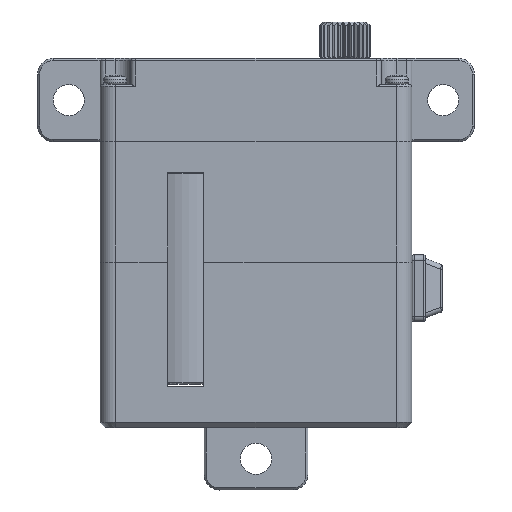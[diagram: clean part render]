
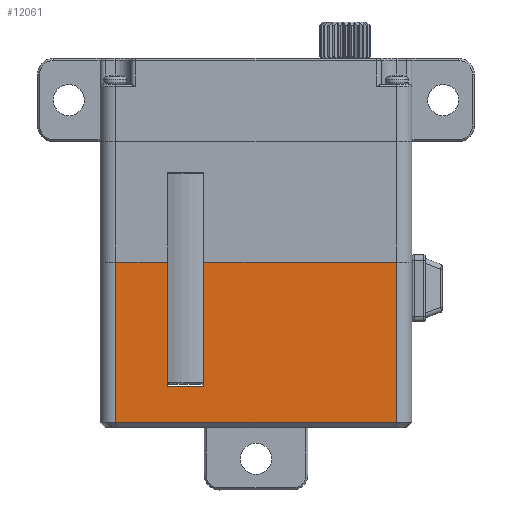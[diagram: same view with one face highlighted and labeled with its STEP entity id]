
A CAD part, top view. The second image highlights one B-rep face of the part: STEP entity #12061.
In plain terms, the highlighted planar face has unit normal (0, 0, 1).
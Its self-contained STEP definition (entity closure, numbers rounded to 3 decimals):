
#470=DIRECTION('',(1.,0.,0.));
#471=VECTOR('',#470,4.99);
#472=CARTESIAN_POINT('',(-13.5,-11.61,5.));
#473=LINE('',#472,#471);
#474=DIRECTION('',(1.,0.,0.));
#475=VECTOR('',#474,3.5);
#476=CARTESIAN_POINT('',(-8.51,-23.6,5.));
#477=LINE('',#476,#475);
#478=DIRECTION('',(1.,0.,0.));
#479=VECTOR('',#478,18.51);
#480=CARTESIAN_POINT('',(-5.01,-11.61,5.));
#481=LINE('',#480,#479);
#482=DIRECTION('',(0.,-1.,0.));
#483=VECTOR('',#482,15.39);
#484=CARTESIAN_POINT('',(13.5,-11.61,5.));
#485=LINE('',#484,#483);
#486=DIRECTION('',(-1.,0.,0.));
#487=VECTOR('',#486,27.);
#488=CARTESIAN_POINT('',(13.5,-27.,5.));
#489=LINE('',#488,#487);
#490=DIRECTION('',(0.,1.,0.));
#491=VECTOR('',#490,15.39);
#492=CARTESIAN_POINT('',(-13.5,-27.,5.));
#493=LINE('',#492,#491);
#5718=DIRECTION('',(0.,1.,0.));
#5719=VECTOR('',#5718,11.99);
#5720=CARTESIAN_POINT('',(-8.51,-23.6,5.));
#5721=LINE('',#5720,#5719);
#6596=DIRECTION('',(0.,-1.,0.));
#6597=VECTOR('',#6596,11.99);
#6598=CARTESIAN_POINT('',(-5.01,-11.61,5.));
#6599=LINE('',#6598,#6597);
#9600=CARTESIAN_POINT('',(-8.51,-23.6,5.));
#9601=CARTESIAN_POINT('',(-5.01,-23.6,5.));
#9602=VERTEX_POINT('',#9600);
#9603=VERTEX_POINT('',#9601);
#9652=CARTESIAN_POINT('',(13.5,-27.,5.));
#9653=CARTESIAN_POINT('',(-13.5,-27.,
5.));
#9654=VERTEX_POINT('',#9652);
#9655=VERTEX_POINT('',#9653);
#11353=CARTESIAN_POINT('',(-13.5,-11.61,5.));
#11354=CARTESIAN_POINT('',(-8.51,-11.61,5.));
#11355=VERTEX_POINT('',#11353);
#11356=VERTEX_POINT('',#11354);
#11357=CARTESIAN_POINT('',(-5.01,-11.61,5.));
#11358=CARTESIAN_POINT('',(13.5,-11.61,5.));
#11359=VERTEX_POINT('',#11357);
#11360=VERTEX_POINT('',#11358);
#12040=CARTESIAN_POINT('',(-15.,0.,5.));
#12041=DIRECTION('',(0.,0.,1.));
#12042=DIRECTION('',(1.,0.,0.));
#12043=AXIS2_PLACEMENT_3D('',#12040,#12041,#12042);
#12044=PLANE('',#12043);
#12046=ORIENTED_EDGE('',*,*,#12045,.T.);
#12048=ORIENTED_EDGE('',*,*,#12047,.F.);
#12050=ORIENTED_EDGE('',*,*,#12049,.T.);
#12052=ORIENTED_EDGE('',*,*,#12051,.F.);
#12054=ORIENTED_EDGE('',*,*,#12053,.T.);
#12055=ORIENTED_EDGE('',*,*,#11999,.T.);
#12057=ORIENTED_EDGE('',*,*,#12056,.T.);
#12058=ORIENTED_EDGE('',*,*,#11760,.T.);
#12059=EDGE_LOOP('',(#12046,#12048,#12050,#12052,#12054,#12055,#12057,#12058));
#12060=FACE_OUTER_BOUND('',#12059,.F.);
#11760=EDGE_CURVE('',#9655,#11355,#493,.T.);
#11999=EDGE_CURVE('',#11360,#9654,#485,.T.);
#12045=EDGE_CURVE('',#11355,#11356,#473,.T.);
#12047=EDGE_CURVE('',#9602,#11356,#5721,.T.);
#12049=EDGE_CURVE('',#9602,#9603,#477,.T.);
#12051=EDGE_CURVE('',#11359,#9603,#6599,.T.);
#12053=EDGE_CURVE('',#11359,#11360,#481,.T.);
#12056=EDGE_CURVE('',#9654,#9655,#489,.T.);
#12061=ADVANCED_FACE('',(#12060),#12044,.T.);
